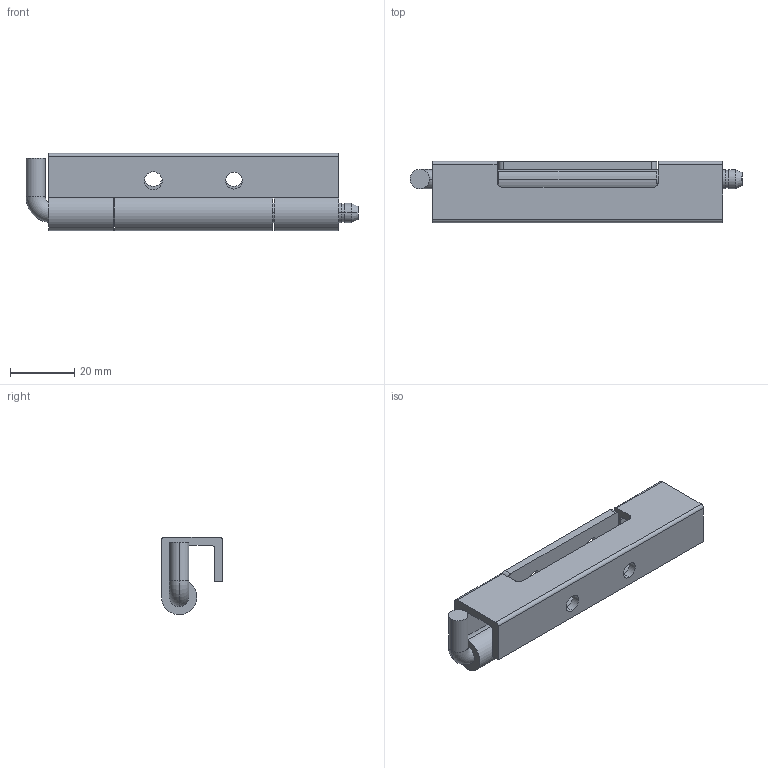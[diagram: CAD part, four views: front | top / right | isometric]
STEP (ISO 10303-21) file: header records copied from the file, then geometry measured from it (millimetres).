
FILE_DESCRIPTION (( 'STEP AP203' ), '1' );
FILE_NAME ('B12-28314.STEP', '2024-10-25T08:13:49', ( '' ), ( '' ), 'SwSTEP 2.0', 'SolidWorks 2021', '' );
FILE_SCHEMA (( 'CONFIG_CONTROL_DESIGN' ));
Length unit declared in the file: millimetre
Products named in the file (4): B12-28314-1; B12-28314-2; B12-28314-軸; B12-28314
Assembly tree (3 placements, depth 2):
  B12-28314
    B12-28314-1
    B12-28314-2
    B12-28314-軸
Bounding box: 103 x 19 x 24 mm (x, y, z)
Volume: 17513.3 mm3; surface area: 15189.9 mm2
Topology: 3 solids, 3 shells, 74 faces, 194 edges, 128 vertices
Faces by surface type: cylinder 44, plane 26, torus 2, cone 2
Entity records: 2750 total; most frequent: DIRECTION 448, CARTESIAN_POINT 402, ORIENTED_EDGE 388, EDGE_CURVE 194, AXIS2_PLACEMENT_3D 174, VERTEX_POINT 128, LINE 100, VECTOR 100
